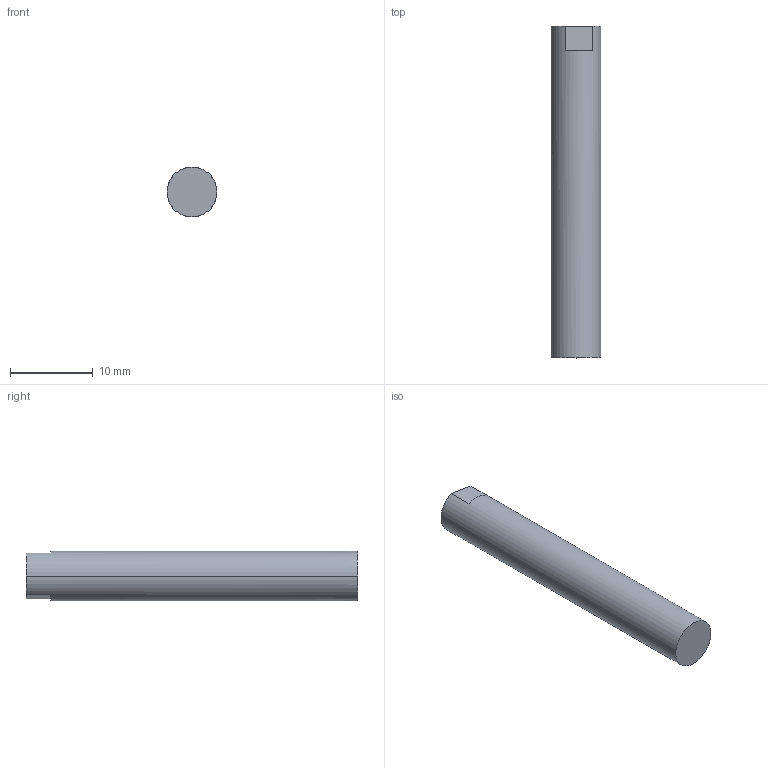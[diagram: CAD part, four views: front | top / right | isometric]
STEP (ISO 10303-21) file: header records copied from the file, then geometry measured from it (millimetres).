
FILE_DESCRIPTION (( 'STEP AP203' ), '1' );
FILE_NAME ('___.stp_Défaut_sldprt.STEP', '2024-11-30T15:38:34', ( '' ), ( '' ), 'SwSTEP 2.0', 'SolidWorks 2023', '' );
FILE_SCHEMA (( 'CONFIG_CONTROL_DESIGN' ));
Length unit declared in the file: millimetre
Products named in the file (1): ___.stp_Défaut_sldprt
Bounding box: 6 x 40 x 6 mm (x, y, z)
Volume: 1086.2 mm3; surface area: 869.1 mm2
Topology: 1 solids, 1 shells, 12 faces, 28 edges, 17 vertices
Faces by surface type: plane 6, cylinder 4, cone 2
Entity records: 411 total; most frequent: DIRECTION 64, CARTESIAN_POINT 56, ORIENTED_EDGE 52, EDGE_CURVE 26, AXIS2_PLACEMENT_3D 25, VERTEX_POINT 17, LINE 14, VECTOR 14
